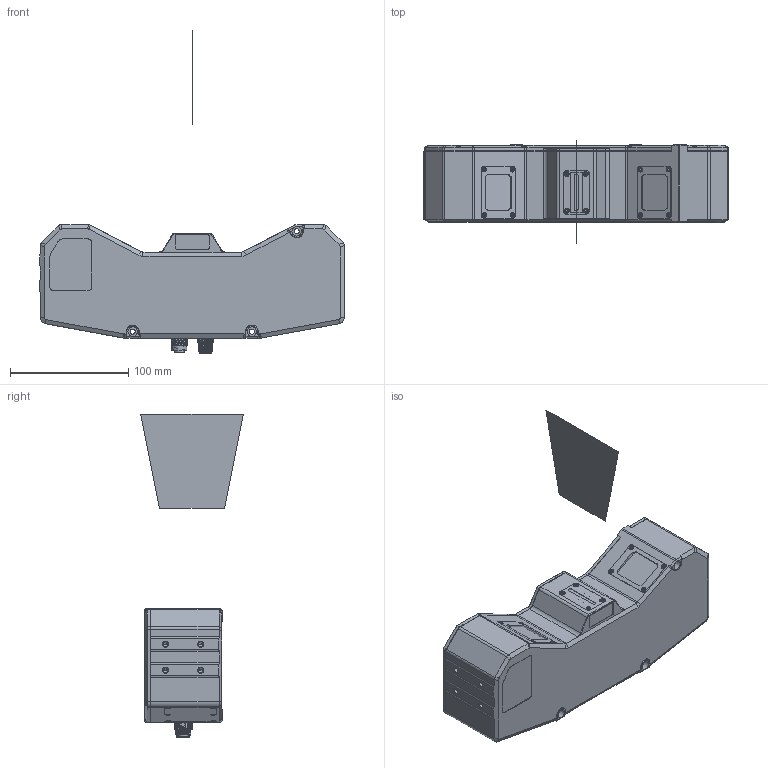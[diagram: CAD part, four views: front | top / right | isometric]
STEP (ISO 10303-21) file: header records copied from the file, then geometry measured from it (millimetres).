
FILE_DESCRIPTION((''),'2;1');
FILE_NAME('00_ALL_DP3120-01D_SW0001','2024-08-01T16:33:28',('duhuaiyuan'),(''),'CREO PARAMETRIC BY PTC INC, 2020044','CREO PARAMETRIC BY PTC INC, 2020044','');
FILE_SCHEMA(('CONFIG_CONTROL_DESIGN'));
Length unit declared in the file: millimetre
Products named in the file (1): 00_ALL_DP3120-01D_SW0001
Bounding box: 258 x 87 x 274.4 mm (x, y, z)
Surface area: 101654.5 mm2 (no closed solid volume)
Topology: 0 solids, 61 shells, 993 faces, 3155 edges, 2175 vertices
Faces by surface type: plane 446, cylinder 259, cone 173, torus 67, bspline 48
Entity records: 42634 total; most frequent: CARTESIAN_POINT 15559, DIRECTION 5514, ORIENTED_EDGE 5235, EDGE_CURVE 3123, VERTEX_POINT 2175, AXIS2_PLACEMENT_3D 1900, VECTOR 1714, LINE 1714
